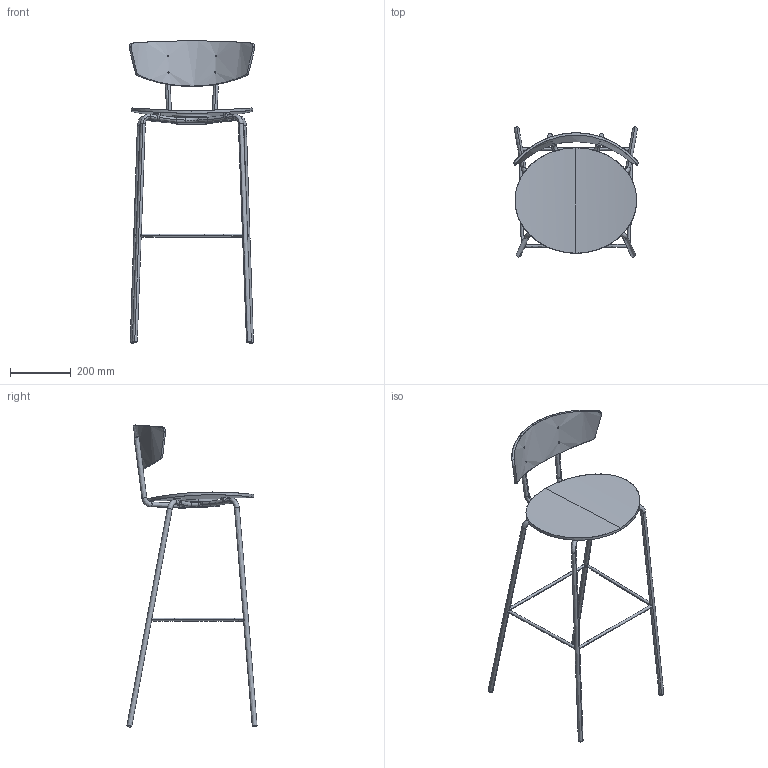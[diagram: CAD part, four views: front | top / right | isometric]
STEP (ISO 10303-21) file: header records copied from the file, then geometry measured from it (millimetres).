
FILE_DESCRIPTION(/* description */ (''),/* implementation_level */ '2;1');
FILE_NAME(/* name */ 'H0MDRW~7',/* time_stamp */ '2018-04-06T14:59:50+02:00',/* author */ (''),/* organization */ (''),/* preprocessor_version */ 'ST-DEVELOPER v15',/* originating_system */ '',/* authorisation */ '');
FILE_SCHEMA (('AUTOMOTIVE_DESIGN'));
Length unit declared in the file: millimetre
Products named in the file (1): Document
Bounding box: 413.28 x 427.51 x 993 mm (x, y, z)
Surface area: 717275.3 mm2 (no closed solid volume)
Topology: 0 solids, 161 shells, 227 faces, 797 edges, 665 vertices
Faces by surface type: bspline 227
Entity records: 33410 total; most frequent: CARTESIAN_POINT 25834, B_SPLINE_CURVE_WITH_KNOTS 1213, ORIENTED_EDGE 929, PCURVE 929, DEFINITIONAL_REPRESENTATION 929, SURFACE_CURVE 797, EDGE_CURVE 797, VERTEX_POINT 665
